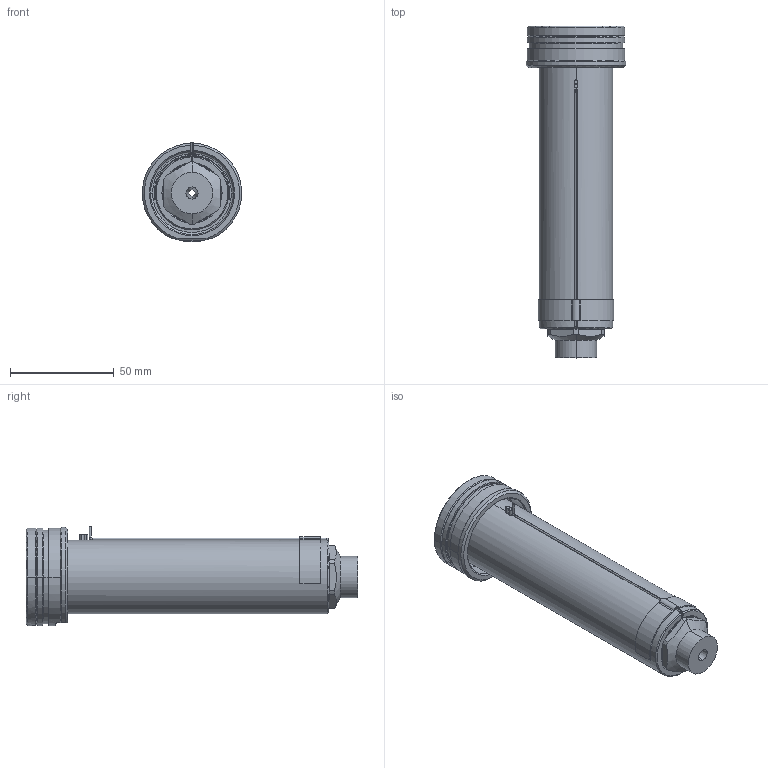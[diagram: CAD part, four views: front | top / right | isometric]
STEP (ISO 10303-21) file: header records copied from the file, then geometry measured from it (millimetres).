
FILE_DESCRIPTION((''),'2;1');
FILE_NAME('EO16_SG_SG_140_SW','2024-02-19T12:33:12',('sundharh'),(''),'CREO PARAMETRIC BY PTC INC, 2023154','CREO PARAMETRIC BY PTC INC, 2023154','');
FILE_SCHEMA(('CONFIG_CONTROL_DESIGN'));
Length unit declared in the file: millimetre
Products named in the file (1): EO16_SG_SG_140_SW
Bounding box: 47.97 x 160 x 48 mm (x, y, z)
Volume: 132857.8 mm3; surface area: 33205.6 mm2
Topology: 1 solids, 1 shells, 164 faces, 410 edges, 252 vertices
Faces by surface type: cylinder 64, plane 45, cone 31, torus 14, bspline 7, sphere 3
Entity records: 5643 total; most frequent: CARTESIAN_POINT 1652, DIRECTION 884, ORIENTED_EDGE 804, EDGE_CURVE 402, AXIS2_PLACEMENT_3D 365, VERTEX_POINT 252, CIRCLE 208, EDGE_LOOP 180
